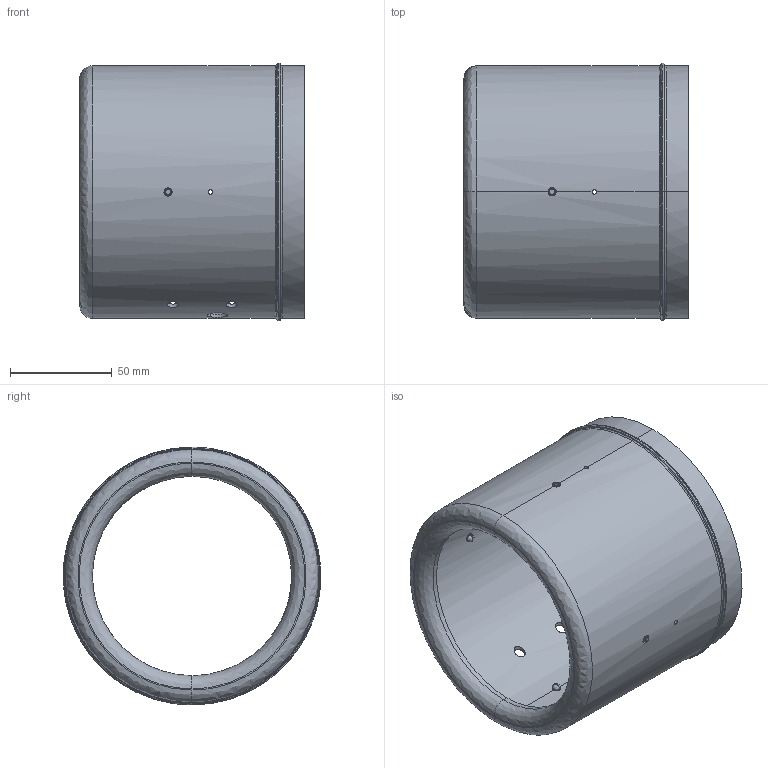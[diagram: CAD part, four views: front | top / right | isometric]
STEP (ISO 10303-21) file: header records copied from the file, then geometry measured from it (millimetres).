
FILE_DESCRIPTION(/* description */ (''),/* implementation_level */ '2;1');
FILE_NAME(/* name */ 'SE-A125',/* time_stamp */ '2024-01-15T11:42:27+08:00',/* author */ (''),/* organization */ (''),/* preprocessor_version */ 'ST-DEVELOPER v16.5',/* originating_system */ '',/* authorisation */ '');
FILE_SCHEMA (('CONFIG_CONTROL_DESIGN'));
Length unit declared in the file: millimetre
Products named in the file (1): Document
Bounding box: 110 x 126.3 x 126.5 mm (x, y, z)
Volume: 70649.2 mm3; surface area: 95191.1 mm2
Topology: 1 solids, 1 shells, 122 faces, 316 edges, 189 vertices
Faces by surface type: bspline 61, cylinder 51, plane 10
Entity records: 8588 total; most frequent: CARTESIAN_POINT 6622, ORIENTED_EDGE 614, EDGE_CURVE 307, VERTEX_POINT 189, B_SPLINE_CURVE_WITH_KNOTS 163, EDGE_LOOP 148, ADVANCED_FACE 122, FACE_OUTER_BOUND 122
